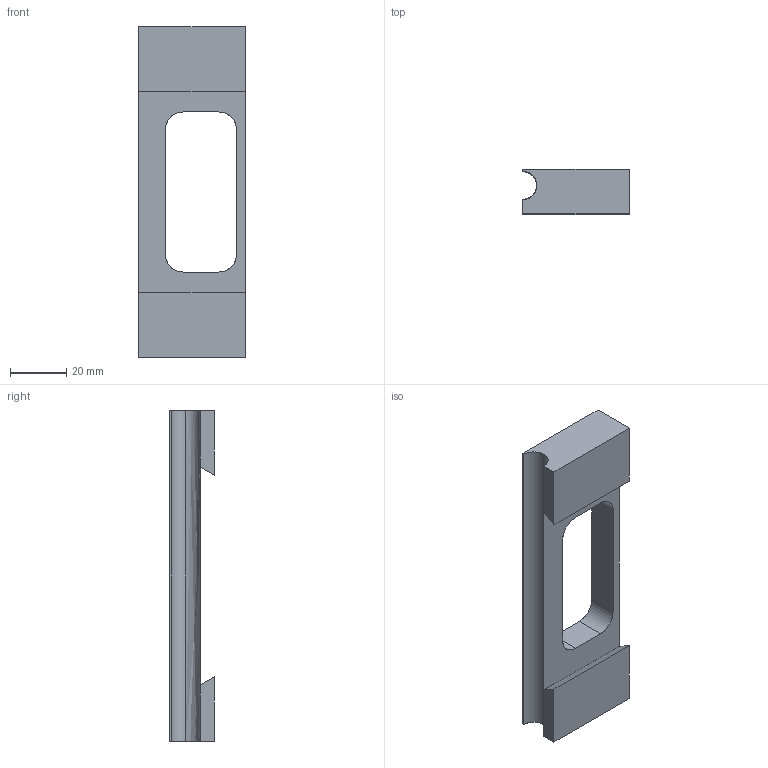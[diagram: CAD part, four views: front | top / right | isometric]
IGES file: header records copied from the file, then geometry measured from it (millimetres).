
Start section: SolidWorks IGES FILE using analytic representation for surfaces
Global section: file name: G:\Work In Progress\900252_ROV Marker Tool\900252-Release_Drawings\Slider.IGS; native system: SolidWorks 2003 by SolidWorks Corporation; preprocessor: Version 5.3; author: mob; date: 030129.110650; units: inch
Bounding box: 38.1 x 15.88 x 118.11 mm (x, y, z)
Surface area: 13304.7 mm2 (no closed solid volume)
Topology: 0 solids, 0 shells, 22 faces, 200 edges, 200 vertices
Faces by surface type: bspline 16, revolution 6
